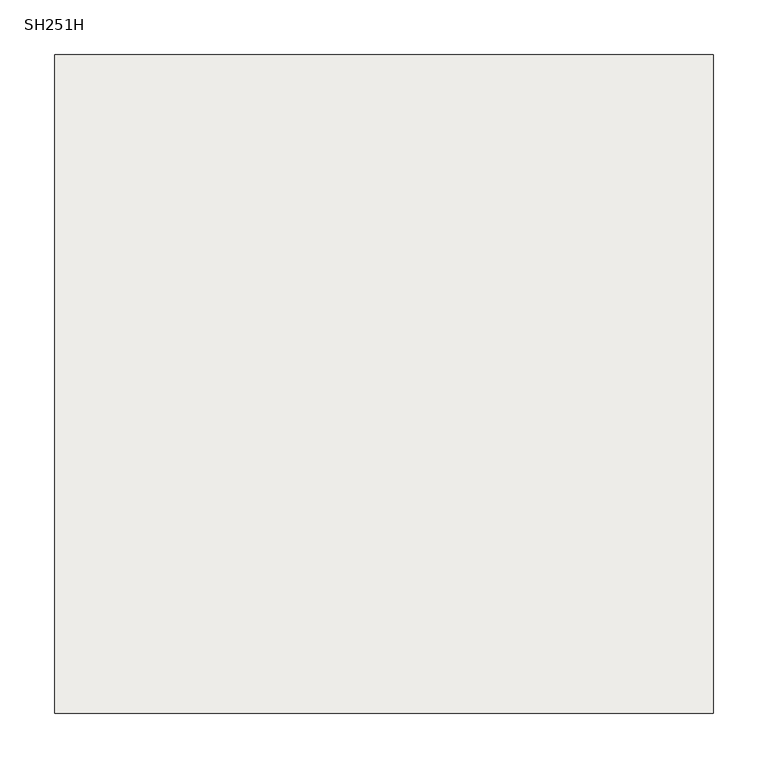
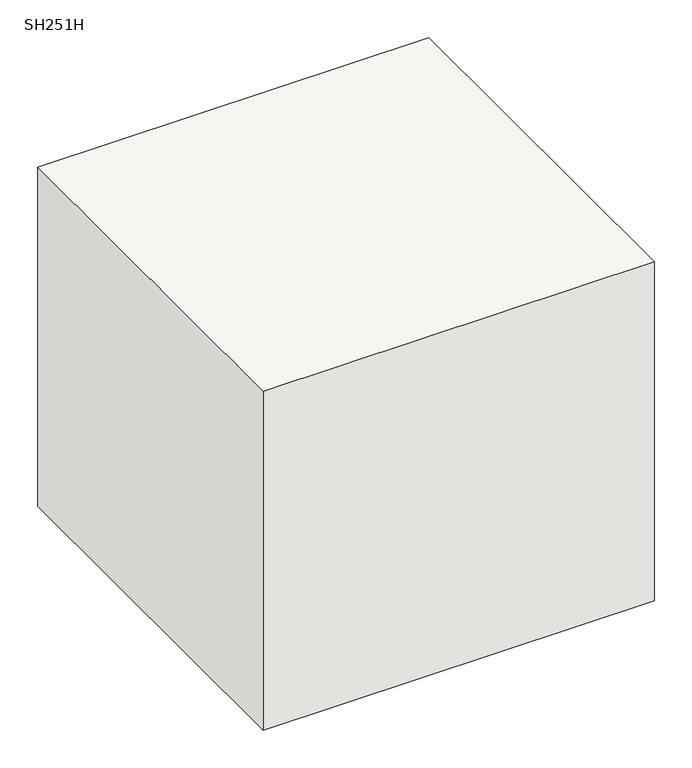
"""IFC4 building model written with IfcOpenShell, lengths in millimetres: slab geometry, 柱形_SH : SH251H."""

from ifc_helpers import new_model, si_unit, frame, origin, place, context, project, spatial, polyline, outline, extrude, source, transform, mapped, element, save


def sh251h_bfb0af9b(model_context):
    return source(origin(), model_context, "Body", "SweptSolid", [
        extrude(outline(polyline([(300.0, 300.0), (300.0, -300.0), (-300.0, -300.0), (-300.0, 300.0), (300.0, 300.0)])), frame((0.0, 0.0, -550.0), z_axis=(0.0, 0.0, 1.0), x_axis=(1.0, 0.0, 0.0)), (0.0, 0.0, 1.0), 550.0),
    ])


if __name__ == "__main__":
    model = new_model("IFC4")
    model_context = context("Model", 3, world=origin())
    ifc_project = project(units=[si_unit("LENGTHUNIT", "METRE", prefix="MILLI")], contexts=[model_context])
    site = spatial("IfcSite", under=ifc_project)
    building = spatial("IfcBuilding", under=site)
    placement = place(None, origin())
    sh251h_shape = sh251h_bfb0af9b(model_context)
    element("IfcSlab", 1, ObjectType="柱形_SH : SH251H", at=placement, inside=building, context=model_context, shape_type="MappedRepresentation", body=[
        mapped(sh251h_shape, transform((0.0, 0.0, 0.0), x_axis=(1.0, 0.0, 0.0), y_axis=(0.0, 1.0, 0.0), z_axis=(0.0, 0.0, 1.0))),
    ])
    save(model, "model.ifc")
